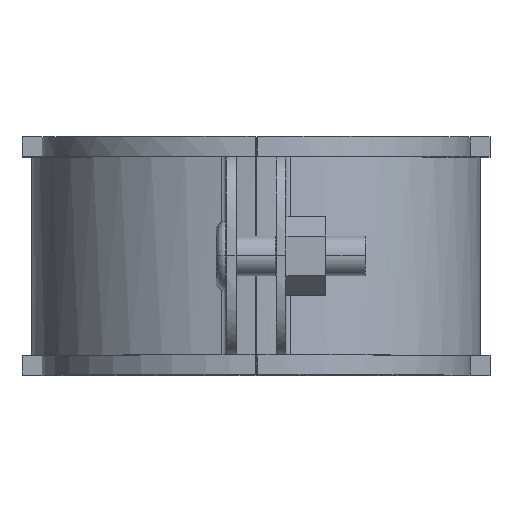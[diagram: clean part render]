
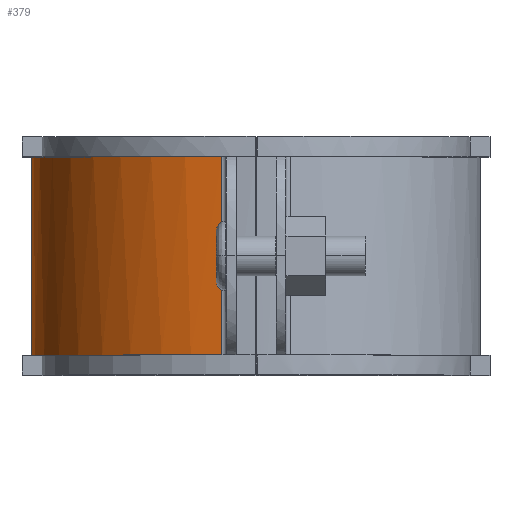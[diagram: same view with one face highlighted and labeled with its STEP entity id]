
A CAD part, top view. The second image highlights one B-rep face of the part: STEP entity #379.
In plain terms, the highlighted free-form (B-spline) face has degree [3, 1] with [4, 2] control points.
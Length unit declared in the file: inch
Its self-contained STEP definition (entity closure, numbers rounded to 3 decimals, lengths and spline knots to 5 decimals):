
#379=ADVANCED_FACE('',(#1075),#1076,.T.);
#455=EDGE_CURVE('',#1202,#1203,#1204,.T.);
#685=EDGE_CURVE('',#1554,#1203,#1555,.T.);
#865=EDGE_CURVE('',#1554,#1455,#1789,.T.);
#883=EDGE_CURVE('',#1455,#1202,#1809,.T.);
#1075=FACE_OUTER_BOUND('',#2039,.T.);
#1076=B_SPLINE_SURFACE_WITH_KNOTS('',3,1,((#2040,#2041),(#2042,#2043),(#2044,#2045),(#2046,#2047)),.UNSPECIFIED.,.F.,.F.,.F.,(4,4),(2,2),(-1.0,-0.0),(0.0,1.25),.UNSPECIFIED.);
#1202=VERTEX_POINT('',#2390);
#1203=VERTEX_POINT('',#2391);
#1204=B_SPLINE_CURVE_WITH_KNOTS('',3,(#2392,#2393,#2394,#2395),.UNSPECIFIED.,.F.,.F.,(4,4),(0.0,1.0),.UNSPECIFIED.);
#1455=VERTEX_POINT('',#2938);
#1554=VERTEX_POINT('',#3185);
#1555=LINE('',#3186,#3187);
#1789=B_SPLINE_CURVE_WITH_KNOTS('',3,(#3653,#3654,#3655,#3656),.UNSPECIFIED.,.F.,.F.,(4,4),(-1.0,-0.0),.UNSPECIFIED.);
#1809=LINE('',#3697,#3698);
#2039=EDGE_LOOP('',(#4107,#4108,#4109,#4110));
#2040=CARTESIAN_POINT('',(1.19451,1.25,3.55442));
#2041=CARTESIAN_POINT('',(1.19451,0.0,3.55442));
#2042=CARTESIAN_POINT('',(0.51782,1.25,3.45117));
#2043=CARTESIAN_POINT('',(0.51782,0.0,3.45117));
#2044=CARTESIAN_POINT('',(-0.0001,1.25,2.86744));
#2045=CARTESIAN_POINT('',(-0.0001,0.0,2.86744));
#2046=CARTESIAN_POINT('',(-0.0001,1.25,2.16158));
#2047=CARTESIAN_POINT('',(-0.0001,0.0,2.16158));
#2390=CARTESIAN_POINT('',(-0.0001,0.0,2.16158));
#2391=CARTESIAN_POINT('',(1.19451,0.0,3.55442));
#2392=CARTESIAN_POINT('',(-0.0001,0.0,2.16158));
#2393=CARTESIAN_POINT('',(-0.0001,0.0,2.86744));
#2394=CARTESIAN_POINT('',(0.51782,0.0,3.45117));
#2395=CARTESIAN_POINT('',(1.19451,0.0,3.55442));
#2938=CARTESIAN_POINT('',(-0.0001,1.24627,2.16158));
#3185=CARTESIAN_POINT('',(1.19451,1.24627,3.55442));
#3186=CARTESIAN_POINT('',(1.19451,1.25,3.55442));
#3187=VECTOR('',#4713,1.0);
#3653=CARTESIAN_POINT('',(1.19451,1.24627,3.55442));
#3654=CARTESIAN_POINT('',(0.51782,1.24627,3.45117));
#3655=CARTESIAN_POINT('',(-0.0001,1.24627,2.86744));
#3656=CARTESIAN_POINT('',(-0.0001,1.24627,2.16158));
#3697=CARTESIAN_POINT('',(-0.0001,1.25,2.16158));
#3698=VECTOR('',#5072,1.0);
#4107=ORIENTED_EDGE('',*,*,#865,.T.);
#4108=ORIENTED_EDGE('',*,*,#883,.T.);
#4109=ORIENTED_EDGE('',*,*,#455,.T.);
#4110=ORIENTED_EDGE('',*,*,#685,.F.);
#4713=DIRECTION('',(0.0,-1.0,0.0));
#5072=DIRECTION('',(0.0,-1.0,0.0));
